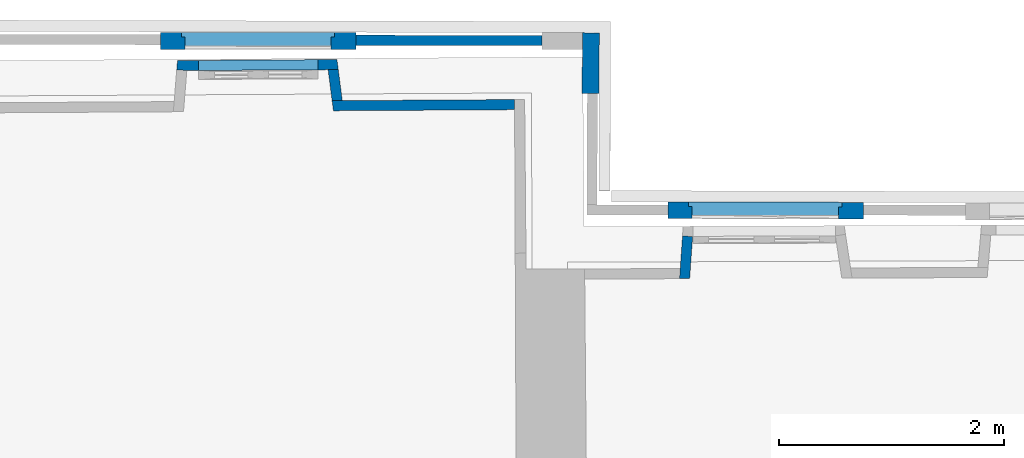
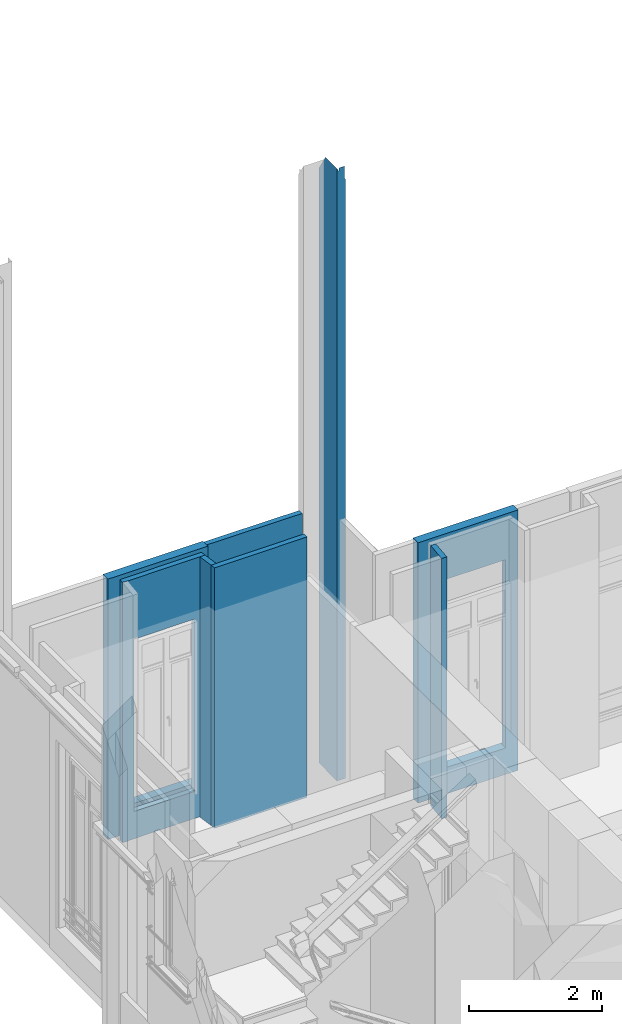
# One storey, part 21 of 97: 8 walls, 4 openings.
"""IFC2X3 building model written with IfcOpenShell, lengths in centimetres."""

from ifc_helpers import new_model, entity, si_unit, converted_unit, direction, frame, origin, origin_with_axes, origin_2d_with_axis, place, context, subcontext, project, spatial, polyline, rectangle, outline, extrude, clip, bounded_halfspace, faceted_brep, shape, material, layer, layer_set, layer_usage, type_object, element, save


model = new_model("IFC2X3")

# Units and contexts
model_context = context("Model", 3, precision=0.0001, world=origin(), true_north=direction((0.225632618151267, 0.974212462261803, 0.0)))
body_context = subcontext(model_context, "Body", "Model", "MODEL_VIEW")
footprint_context = subcontext(model_context, "FootPrint", "Model", "MODEL_VIEW")
profile_context = subcontext(model_context, "Profile", "Model", "MODEL_VIEW")
ifc_project = project(units=[si_unit("LENGTHUNIT", "METRE", prefix="CENTI"), si_unit("AREAUNIT", "SQUARE_METRE", prefix="CENTI"), si_unit("VOLUMEUNIT", "CUBIC_METRE", prefix="CENTI"), converted_unit("PLANEANGLEUNIT", "DEGREE", entity("IfcRatioMeasure", 0.0174532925), si_unit("PLANEANGLEUNIT", "RADIAN"), dimensions=[0, 0, 0, 0, 0, 0, 0])], contexts=[model_context])

# Site, building, storey
site_placement = place(None, origin_with_axes())
site = spatial("IfcSite", under=ifc_project, at=site_placement, Name="Default Site", CompositionType="ELEMENT")
building_placement = place(site_placement, origin_with_axes())
building = spatial("IfcBuilding", under=site, at=building_placement, Name="Default Building", CompositionType="ELEMENT")
storey_placement = place(building_placement, origin_with_axes())
storey = spatial("IfcBuildingStorey", under=building, at=storey_placement, Name="Rez-de-chaussée", CompositionType="ELEMENT", Elevation=0.0)

# Walls
ifc_material = material(Name="<aucun>")
ifc_layer_1 = layer(ifc_material, 9.0)
ifc_layer_set_1 = layer_set([ifc_layer_1], Name="default")
ifc_layer_usage_1 = layer_usage(ifc_layer_set_1, "AXIS2", "POSITIVE", -4.5)
wall_type_1 = type_object("IfcWallType", Name="default 90", PredefinedType="NOTDEFINED", material=ifc_layer_set_1)
wall_1_placement = place(storey_placement, frame((-702.218947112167, 756.17984749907, 0.0128503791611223), z_axis=(0.0, 0.0, 1.0), x_axis=(-0.999997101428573, 0.0024077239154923, 0.0)))
element("IfcWallStandardCase", 1, at=wall_1_placement, inside=storey, type_object=wall_type_1, material=ifc_layer_usage_1, Name="Enveloppe 370416", context=body_context, shape_type="SweptSolid", body=[
    extrude(outline(polyline([(165.752882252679, 4.50000000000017), (0.20206396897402, 4.50000000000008), (0.216283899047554, -4.49999999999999), (165.767102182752, -4.4999999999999), (165.752882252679, 4.50000000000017)])), frame((0.0, 0.0, -2.71050543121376e-18), z_axis=(0.0, 0.0, 1.0), x_axis=(1.0, 0.0, 0.0)), (0.0, 0.0, 1.0), 477.795358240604),
])
ifc_layer_usage_2 = layer_usage(ifc_layer_set_1, "AXIS2", "POSITIVE", -4.5)
wall_2_placement = place(storey_placement, frame((-575.757280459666, 544.966545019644, 0.0128503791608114), z_axis=(0.0, 0.0, 1.0), x_axis=(0.0702760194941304, 0.997527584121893, 0.0)))
element("IfcWallStandardCase", 2, at=wall_2_placement, inside=storey, type_object=wall_type_1, material=ifc_layer_usage_2, Name="Enveloppe 668499", context=body_context, shape_type="SweptSolid", body=[
    extrude(outline(polyline([(-0.667915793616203, 4.49999999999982), (-0.000297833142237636, -4.49999999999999), (37.6816343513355, -4.49999999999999), (37.4825373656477, -1.81678857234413), (37.4825373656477, 4.4999999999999), (-0.667915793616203, 4.49999999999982)])), frame((0.0, 0.0, -2.71050543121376e-18), z_axis=(0.0, 0.0, 1.0), x_axis=(1.0, 0.0, 0.0)), (0.0, 0.0, 1.0), 477.795358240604),
])
ifc_layer_usage_3 = layer_usage(ifc_layer_set_1, "AXIS2", "POSITIVE", -4.5)
wall_3_placement = place(storey_placement, frame((-887.925616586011, 698.355817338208, 0.0128503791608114), z_axis=(0.0, 0.0, 1.0), x_axis=(0.999982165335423, 0.00597235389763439, 0.0)))
element("IfcWallStandardCase", 3, at=wall_3_placement, inside=storey, type_object=wall_type_1, material=ifc_layer_usage_3, Name="Enveloppe 666967", context=body_context, shape_type="Clipping", body=[
    clip(extrude(outline(polyline([(-1.11855202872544, 4.50000000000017), (0.000420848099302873, -4.49999999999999), (161.018876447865, -4.50000072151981), (161.01887556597, 4.49985161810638), (-1.11855202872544, 4.50000000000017)])), frame((0.0, 0.0, -2.71050543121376e-18), z_axis=(0.0, 0.0, 1.0), x_axis=(1.0, 0.0, 0.0)), (0.0, 0.0, 1.0), 477.795358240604), bounded_halfspace(frame((161.018876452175, 4.50000000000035, 397.695358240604), z_axis=(0.0, 0.0, 1.0), x_axis=(8.67361737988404e-19, -1.0, 0.0)), True, frame((161.018876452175, 4.50000000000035, 397.695358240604), z_axis=(0.0, 0.0, 1.0), x_axis=(1.0, 0.0, 0.0)), polyline([(-0.0248452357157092, 8.88178419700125e-14), (8.88178419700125e-14, 8.88178419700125e-14), (8.88178419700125e-14, -9.00000000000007), (-0.0248452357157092, 8.88178419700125e-14)]))),
])

# Wall, openings
ifc_layer_usage_4 = layer_usage(ifc_layer_set_1, "AXIS2", "POSITIVE", -4.5)
wall_4_placement = place(storey_placement, frame((-1022.27411921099, 734.070073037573, 0.0128503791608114), z_axis=(0.0, 0.0, 1.0), x_axis=(0.999982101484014, 0.00598303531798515, 0.0)))
wall_4 = element("IfcWallStandardCase", 4, at=wall_4_placement, inside=storey, type_object=wall_type_1, material=ifc_layer_usage_4, Name="Enveloppe 667195", context=body_context, shape_type="SweptSolid", body=[
    extrude(outline(polyline([(-4.92583096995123, -3.72202359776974), (4.04048113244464, -4.49999999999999), (138.662245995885, -4.49999999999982), (137.543370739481, 4.49999999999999), (-4.21243394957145, 4.4999999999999), (-4.92583096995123, -3.72202359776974)])), origin_with_axes(), (0.0, 0.0, 1.0), 477.795358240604),
])
opening_1_placement = place(wall_4_placement, frame((3.86591403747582, -1.13686837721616e-13, 0.0), z_axis=(0.0, 0.0, 1.0), x_axis=(-1.0, -1.13017234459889e-15, 0.0)))
cartesian_point_1 = entity("IfcCartesianPoint", [0.0, -8.88178419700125e-14, 49.5])
cartesian_point_2 = entity("IfcCartesianPoint", [-127.260088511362, -4.50000000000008])
element("IfcOpeningElement", 5, at=opening_1_placement, cuts=wall_4, Name="Baie 30044", ObjectType="Recess", shapes=[
    shape(body_context, "Body", "Brep", [faceted_brep([(2.8816631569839e-05, 24.5000114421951, -4.62607735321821e-10), (-127.26007296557, 24.5000114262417, -4.62607735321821e-10), (-127.26007296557, 24.5000114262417, 49.5000008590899), (2.8816631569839e-05, 24.5000114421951, 49.5000008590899), (2.8819264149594e-05, 3.50001349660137, 49.5000008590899), (2.8819264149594e-05, 3.50001349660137, -4.62607735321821e-10), (-1.60060858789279e-05, 3.50001349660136, -4.62607735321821e-10), (-127.260117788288, 3.50000160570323, -4.62607735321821e-10), (-127.26007296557, 24.4999995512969, -4.62607735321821e-10), (-127.260072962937, 3.50000160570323, -4.62607735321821e-10), (-127.260072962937, 3.50000160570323, 49.5000008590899), (-127.26007296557, 24.4999995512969, 49.5000008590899), (-127.260117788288, 3.50000160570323, 49.5000008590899), (-1.60060858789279e-05, 3.50001349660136, 49.5000008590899), (-1.60060858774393e-05, 3.50000162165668, -4.62607735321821e-10), (-1.60060858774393e-05, 3.50000162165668, 49.5000008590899)], [[[0, 1, 2, 3]], [[3, 4, 5, 0]], [[0, 6, 7, 8]], [[8, 9, 10, 11]], [[11, 12, 13, 3]], [[12, 7, 14, 15]]])]),
    shape(profile_context, "Profile", "GeometricCurveSet", [entity("IfcGeometricCurveSet", [entity("IfcPolyline", [cartesian_point_1, entity("IfcCartesianPoint", [0.0, -8.88178419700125e-14, 0.0]), entity("IfcCartesianPoint", [-127.260088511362, -1.77635683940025e-13, 0.0]), entity("IfcCartesianPoint", [-127.260088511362, -1.77635683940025e-13, 49.5]), cartesian_point_1])])]),
    shape(footprint_context, "FootPrint", "GeometricCurveSet", [entity("IfcGeometricCurveSet", [entity("IfcPolyline", [cartesian_point_2, entity("IfcCartesianPoint", [1.77635683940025e-13, -4.50000000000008]), entity("IfcCartesianPoint", [0.0, 4.49999999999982]), entity("IfcCartesianPoint", [-127.260088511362, 4.49999999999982]), cartesian_point_2])])]),
])
opening_2_placement = place(wall_4_placement, frame((14.4959660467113, 1.13686837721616e-13, 50.7151902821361), z_axis=(0.0, 0.0, 1.0), x_axis=(-1.0, -1.13017234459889e-15, 0.0)))
cartesian_point_3 = entity("IfcCartesianPoint", [0.0, 0.0, 316.0])
cartesian_point_4 = entity("IfcCartesianPoint", [-106.0, -4.49999999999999])
element("IfcOpeningElement", 6, at=opening_2_placement, cuts=wall_4, Name="4294966453_11", ObjectType="Opening", shapes=[
    shape(body_context, "Body", "SweptSolid", [extrude(outline(polyline([(0.0, 316.0), (0.0, -1.11022302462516e-14), (106.0, -1.11022302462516e-14), (106.0, 316.0), (0.0, 316.0)])), frame((0.0, -14.5, 0.0), z_axis=(0.0, 1.0, 0.0), x_axis=(-1.0, 0.0, 0.0)), (0.0, 0.0, 1.0), 29.0)]),
    shape(profile_context, "Profile", "GeometricCurveSet", [entity("IfcGeometricCurveSet", [entity("IfcPolyline", [cartesian_point_3, entity("IfcCartesianPoint", [0.0, 0.0, -1.11022302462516e-14]), entity("IfcCartesianPoint", [-106.0, -8.88178419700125e-14, -1.11022302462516e-14]), entity("IfcCartesianPoint", [-106.0, -8.88178419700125e-14, 316.0]), cartesian_point_3])])]),
    shape(footprint_context, "FootPrint", "GeometricCurveSet", [entity("IfcGeometricCurveSet", [entity("IfcPolyline", [cartesian_point_4, entity("IfcCartesianPoint", [0.0, -4.49999999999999]), entity("IfcCartesianPoint", [0.0, 4.49999999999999]), entity("IfcCartesianPoint", [-106.0, 4.4999999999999]), cartesian_point_4])])]),
])

# Walls
ifc_layer_usage_5 = layer_usage(ifc_layer_set_1, "AXIS2", "POSITIVE", -4.5)
wall_5_placement = place(storey_placement, frame((-883.436539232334, 694.441154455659, 0.0128503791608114), z_axis=(0.0, 0.0, 1.0), x_axis=(-0.129304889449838, 0.991604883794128, 0.0)))
element("IfcWallStandardCase", 7, at=wall_5_placement, inside=storey, type_object=wall_type_1, material=ifc_layer_usage_5, Name="Enveloppe 667464", context=body_context, shape_type="SweptSolid", body=[
    extrude(outline(polyline([(36.7951297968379, 4.50000000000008), (9.06588338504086, 4.4999999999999), (7.9469105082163, -4.49999999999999), (35.6762545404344, -4.49999999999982), (36.7951297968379, 4.50000000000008)])), origin_with_axes(), (0.0, 0.0, 1.0), 477.795358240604),
])
ifc_layer_2 = layer(ifc_material, 15.0)
ifc_layer_set_2 = layer_set([ifc_layer_2], Name="default")
ifc_layer_usage_6 = layer_usage(ifc_layer_set_2, "AXIS2", "POSITIVE", -7.5)
wall_type_2 = type_object("IfcWallType", Name="default 150", PredefinedType="NOTDEFINED", material=ifc_layer_set_2)
wall_6_placement = place(storey_placement, frame((-659.371644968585, 709.371428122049, 0.0128503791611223), z_axis=(0.0, 0.0, 1.0), x_axis=(0.00567507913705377, 0.999983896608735, 0.0)))
solid_1 = clip(clip(clip(clip(clip(clip(clip(clip(extrude(outline(polyline([(0.0, 7.49999999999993), (8.88178419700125e-14, 3.65496215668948), (-0.130947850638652, 3.65305669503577), (-0.0601278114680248, -1.2138646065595), (-0.0999955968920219, -5.46214446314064), (8.88178419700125e-14, -5.46308286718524), (1.77635683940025e-13, -7.50000000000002), (53.8786925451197, -7.49999999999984), (53.8059813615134, 7.50000000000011), (0.0, 7.49999999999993)])), frame((0.0, 0.0, -5.42101086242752e-18), z_axis=(0.0, 0.0, 1.0), x_axis=(1.0, 0.0, 0.0)), (0.0, 0.0, 1.0), 1123.5025493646), bounded_halfspace(frame((-0.0155392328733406, 3.53745925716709, 477.795358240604), z_axis=(0.0, 0.0, 1.0), x_axis=(0.999955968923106, -0.00938404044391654, 0.0)), True, frame((-0.0155392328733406, 3.53745925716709, 477.795358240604), z_axis=(0.0, 0.0, 1.0), x_axis=(1.0, 0.0, 0.0)), polyline([(-0.0059621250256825, -0.635319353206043), (0.0, 8.88178419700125e-14), (0.0155392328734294, -0.000145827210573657), (0.0155392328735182, -0.635251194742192), (-0.0059621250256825, -0.635319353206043)]))), bounded_halfspace(frame((-0.0999955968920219, -5.46214446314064, 477.795358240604), z_axis=(0.0, 0.0, 1.0), x_axis=(0.0093840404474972, 0.999955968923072, 0.0)), True, frame((-0.0999955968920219, -5.46214446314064, 477.795358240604), z_axis=(0.0, 0.0, 1.0), x_axis=(1.0, 0.0, 0.0)), polyline([(0.0, 8.88178419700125e-14), (0.0010765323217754, 0.114714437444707), (0.0999955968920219, 0.116153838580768), (0.0999955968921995, -0.00093840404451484), (0.0, 8.88178419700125e-14)]))), bounded_halfspace(frame((1.77635683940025e-13, 2.90220806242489, 477.795358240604), z_axis=(0.0, 0.0, 1.0), x_axis=(-1.43721839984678e-14, -1.0, 0.0)), True, frame((1.77635683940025e-13, 2.90220806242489, 477.795358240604), z_axis=(0.0, 0.0, 1.0), x_axis=(1.0, 0.0, 0.0)), polyline([(-0.0601278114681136, -4.11607266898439), (-0.0215013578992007, -6.81584638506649e-05), (0.0, 0.0), (-1.77635683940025e-13, -8.24819868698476), (-0.0601278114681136, -4.11607266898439)]))), bounded_halfspace(frame((0.0, -5.34599062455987, 477.795358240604), z_axis=(0.0, 0.0, 1.0), x_axis=(-0.999894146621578, -0.014549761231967, 0.0)), True, frame((0.0, -5.34599062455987, 477.795358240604), z_axis=(0.0, 0.0, 1.0), x_axis=(1.0, 0.0, 0.0)), polyline([(-0.0989190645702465, -0.00143940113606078), (-0.060127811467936, 4.13212601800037), (0.0, 0.0), (-0.0989190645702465, -0.00143940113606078)]))), bounded_halfspace(frame((-0.130947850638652, 3.65305669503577, 853.897523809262), z_axis=(0.0, 0.0, 1.0), x_axis=(0.999894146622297, 0.0145497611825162, 0.0)), True, frame((-0.130947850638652, 3.65305669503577, 853.897523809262), z_axis=(0.0, 0.0, 1.0), x_axis=(1.0, 0.0, 0.0)), polyline([(0.0016665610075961, -0.114530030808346), (0.0, 8.88178419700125e-14), (0.130947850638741, 0.0019054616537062), (0.130947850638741, -0.11574326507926), (0.0016665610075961, -0.114530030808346)]))), bounded_halfspace(frame((-0.0215013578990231, 2.90213990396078, 853.897523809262), z_axis=(0.0, 0.0, 1.0), x_axis=(-0.00938404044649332, -0.999955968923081, 0.0)), True, frame((-0.0215013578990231, 2.90213990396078, 853.897523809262), z_axis=(0.0, 0.0, 1.0), x_axis=(1.0, 0.0, 0.0)), polyline([(-0.107779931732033, 0.63638676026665), (0.0059621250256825, 0.635319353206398), (-0.0386264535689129, -4.11600451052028), (-0.107779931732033, 0.63638676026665)]))), bounded_halfspace(frame((32.5779649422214, 7.50000000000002, 1123.4939602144), z_axis=(0.00174607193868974, 0.859768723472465, -0.510680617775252), x_axis=(-0.434852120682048, 0.460522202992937, 0.77383650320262)), True, frame((32.5779649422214, 7.50000000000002, 1123.4939602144), z_axis=(0.0, 0.0, 1.0), x_axis=(1.0, 0.0, 0.0)), polyline([(-32.5779649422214, -13.597837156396), (6.22784018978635, -13.4748242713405), (6.22784018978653, -6.59548050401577), (0.0, 0.0), (-32.5779649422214, 0.0), (-32.5779649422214, -13.597837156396)]))), bounded_halfspace(frame((48.6958165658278, -5.94408199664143, 1100.91673356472), z_axis=(-0.84952483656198, -0.00137620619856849, -0.527546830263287), x_axis=(0.00326736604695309, -0.999991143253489, -0.00265287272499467)), True, frame((48.6958165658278, -5.94408199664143, 1100.91673356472), z_axis=(0.0, 0.0, 1.0), x_axis=(1.0, 0.0, 0.0)), polyline([(8.88178419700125e-14, 8.88178419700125e-14), (1.62573638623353, -1.5559180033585), (5.18287597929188, -1.55591800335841), (5.11016479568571, 13.4440819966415), (2.48507052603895, 13.4440819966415), (2.52896946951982, 0.00862540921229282), (8.88178419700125e-14, 8.88178419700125e-14)])))
solid_2 = clip(clip(clip(clip(clip(clip(clip(clip(solid_1, bounded_halfspace(frame((38.8058051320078, 3.52119599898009, 1116.81823024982), z_axis=(-0.84952483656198, -0.00137620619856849, -0.527546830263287), x_axis=(3.15719672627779e-15, -0.999996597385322, 0.0026086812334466)), True, frame((38.8058051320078, 3.52119599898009, 1116.81823024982), z_axis=(0.0, 0.0, 1.0), x_axis=(1.0, 0.0, 0.0)), polyline([(0.0, 0.0), (9.88937754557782, -9.46467133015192), (12.4189809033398, -9.45665258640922), (12.3750819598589, 3.97880400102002), (0.0, 3.97880400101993), (0.0, 0.0)]))), bounded_halfspace(frame((38.8058051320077, -5.97482427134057, 1100.82938708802), z_axis=(0.00174607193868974, 0.859768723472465, -0.510680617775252), x_axis=(0.999994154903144, 2.23779328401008e-15, 0.00341908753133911)), True, frame((38.8058051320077, -5.97482427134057, 1100.82938708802), z_axis=(0.0, 0.0, 1.0), x_axis=(1.0, 0.0, 0.0)), polyline([(-38.8058051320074, -1.52517572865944), (0.0, -1.52517572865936), (0.0, 8.88178419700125e-14), (-38.8058051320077, -0.123012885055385), (-38.8058051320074, -1.52517572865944)]))), bounded_halfspace(frame((34.6484610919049, 7.50000000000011, 1123.5025493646), z_axis=(-0.84952483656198, -0.00137620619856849, -0.527546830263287), x_axis=(0.471347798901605, -0.451105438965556, -0.757849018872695)), True, frame((34.6484610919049, 7.50000000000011, 1123.5025493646), z_axis=(0.0, 0.0, 1.0), x_axis=(1.0, 0.0, 0.0)), polyline([(0.0, 0.0), (4.15734404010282, -3.97880400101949), (4.15734404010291, -8.88178419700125e-14), (0.0, 0.0)]))), bounded_halfspace(frame((34.6484610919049, 7.50000000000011, 1123.50103946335), z_axis=(0.00174607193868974, 0.859768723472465, -0.510680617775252), x_axis=(-0.999994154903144, -2.28610533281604e-14, -0.00341908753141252)), True, frame((34.6484610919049, 7.50000000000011, 1123.50103946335), z_axis=(0.0, 0.0, 1.0), x_axis=(1.0, 0.0, 0.0)), polyline([(-2.07049614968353, -8.88178419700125e-14), (4.15734404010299, -6.59548050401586), (4.15734404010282, -3.97880400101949), (0.0, 0.0), (-2.07049614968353, -8.88178419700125e-14)]))), bounded_halfspace(frame((45.2822998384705, -5.95429403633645, 1100.88609509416), z_axis=(0.00174607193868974, 0.859768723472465, -0.510680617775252), x_axis=(0.999994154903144, 8.01702454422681e-15, 0.00341908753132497)), True, frame((45.2822998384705, -5.95429403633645, 1100.88609509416), z_axis=(0.0, 0.0, 1.0), x_axis=(1.0, 0.0, 0.0)), polyline([(-6.47649470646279, -1.54570596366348), (1.45954638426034, -1.5457059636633), (8.88178419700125e-14, 0.0), (-6.47649470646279, -0.0205302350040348), (-6.47649470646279, -1.54570596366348)]))), bounded_halfspace(frame((48.6951826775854, -5.94347533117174, 1100.91597820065), z_axis=(0.00174607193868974, 0.859768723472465, -0.510680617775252), x_axis=(-0.999956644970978, -0.00316982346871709, -0.00875559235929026)), True, frame((48.6951826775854, -5.94347533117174, 1100.91597820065), z_axis=(0.0, 0.0, 1.0), x_axis=(1.0, 0.0, 0.0)), polyline([(-3.41288283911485, -0.0108187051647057), (-1.9533364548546, -1.55652466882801), (1.62572544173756, -1.55590752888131), (8.88178419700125e-14, 0.0), (-3.41288283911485, -0.0108187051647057)]))), bounded_halfspace(frame((38.8058051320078, 3.52119599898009, 1116.81664202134), z_axis=(0.00174607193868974, 0.859768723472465, -0.510680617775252), x_axis=(-1.23824561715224e-14, -0.510681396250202, -0.859770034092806)), True, frame((38.8058051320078, 3.52119599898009, 1116.81664202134), z_axis=(0.0, 0.0, 1.0), x_axis=(1.0, 0.0, 0.0)), polyline([(8.88178419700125e-14, -2.61667650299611), (6.47649470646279, -9.47549003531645), (9.88937754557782, -9.46467133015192), (0.0, 0.0), (8.88178419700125e-14, -2.61667650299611)]))), bounded_halfspace(frame((38.8058051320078, 0.90451949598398, 1112.41127291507), z_axis=(0.00174607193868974, 0.859768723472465, -0.510680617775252), x_axis=(-0.43485212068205, 0.460522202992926, 0.773836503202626)), True, frame((38.8058051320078, 0.90451949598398, 1112.41127291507), z_axis=(0.0, 0.0, 1.0), x_axis=(1.0, 0.0, 0.0)), polyline([(-8.88178419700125e-14, -6.87934376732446), (6.47649470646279, -6.85881353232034), (8.88178419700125e-14, 0.0), (-8.88178419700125e-14, -6.87934376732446)])))
element("IfcWallStandardCase", 8, at=wall_6_placement, inside=storey, type_object=wall_type_2, material=ifc_layer_usage_6, Name="Enveloppe 373947", context=body_context, shape_type="Clipping", body=[
    clip(clip(clip(clip(clip(solid_2, bounded_halfspace(frame((0.0, -5.34599062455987, 1101.7553939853), z_axis=(0.00174607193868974, 0.859768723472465, -0.510680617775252), x_axis=(-1.60409879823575e-14, 0.510681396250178, 0.85977003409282)), True, frame((0.0, -5.34599062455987, 1101.7553939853), z_axis=(0.0, 0.0, 1.0), x_axis=(1.0, 0.0, 0.0)), polyline([(-0.0999955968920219, -0.116153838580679), (1.77635683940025e-13, -0.117092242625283), (0.0, 0.0), (-0.0989190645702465, -0.00143940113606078), (-0.0999955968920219, -0.116153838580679)]))), bounded_halfspace(frame((1.77635683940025e-13, 2.90220806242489, 1115.64184866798), z_axis=(0.00174607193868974, 0.859768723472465, -0.510680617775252), x_axis=(-0.00479234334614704, -0.510668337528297, -0.859764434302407)), True, frame((1.77635683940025e-13, 2.90220806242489, 1115.64184866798), z_axis=(0.0, 0.0, 1.0), x_axis=(1.0, 0.0, 0.0)), polyline([(-0.0601278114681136, -4.11607266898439), (-1.77635683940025e-13, -8.24819868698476), (0.0, 0.0), (-0.0215013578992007, -6.81584638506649e-05), (-0.0601278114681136, -4.11607266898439)]))), bounded_halfspace(frame((-0.0601278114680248, -1.2138646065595, 853.897523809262), z_axis=(0.0, 0.0, -1.0), x_axis=(-0.00938404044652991, -0.999955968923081, 0.0)), True, frame((-0.0601278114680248, -1.2138646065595, 853.897523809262), z_axis=(0.0, 0.0, 1.0), x_axis=(1.0, 0.0, 0.0)), polyline([(-0.0387912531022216, -4.13356541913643), (0.0601278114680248, -4.13212601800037), (8.88178419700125e-14, 0.0), (-0.0387912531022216, -4.13356541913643)]))), bounded_halfspace(frame((8.88178419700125e-14, 3.65496215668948, 1116.90916605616), z_axis=(0.00174607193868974, 0.859768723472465, -0.510680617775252), x_axis=(0.999879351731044, -0.00938332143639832, -0.0123788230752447)), True, frame((8.88178419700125e-14, 3.65496215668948, 1116.90916605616), z_axis=(0.0, 0.0, 1.0), x_axis=(1.0, 0.0, 0.0)), polyline([(-0.129281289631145, -0.116435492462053), (0.0, -0.117648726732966), (0.0, 0.0), (-0.130947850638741, -0.00190546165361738), (-0.129281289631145, -0.116435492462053)]))), bounded_halfspace(frame((-0.129281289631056, 3.53852666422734, 1116.71269623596), z_axis=(0.00174607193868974, 0.859768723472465, -0.510680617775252), x_axis=(-0.999879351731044, 0.00938332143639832, 0.0123788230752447)), True, frame((-0.129281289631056, 3.53852666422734, 1116.71269623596), z_axis=(0.0, 0.0, 1.0), x_axis=(1.0, 0.0, 0.0)), polyline([(0.0691534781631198, -4.75239127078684), (0.113742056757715, -0.0010674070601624), (0.0, 8.88178419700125e-14), (0.0691534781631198, -4.75239127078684)]))),
])

# Wall, opening
ifc_layer_usage_7 = layer_usage(ifc_layer_set_2, "AXIS2", "POSITIVE", -7.5)
wall_7_placement = place(storey_placement, frame((-416.840709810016, 605.000028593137, 0.0128503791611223), z_axis=(0.0, 0.0, 1.0), x_axis=(-0.999996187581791, 0.00276130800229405, 0.0)))
wall_7 = element("IfcWallStandardCase", 9, at=wall_7_placement, inside=storey, type_object=wall_type_2, material=ifc_layer_usage_7, Name="Enveloppe 373583", context=body_context, shape_type="SweptSolid", body=[
    extrude(rectangle(XDim=14.9999999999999, YDim=173.830662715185, at=origin_2d_with_axis()), frame((86.9153313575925, -1.77635683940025e-13, -5.42101086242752e-18), z_axis=(0.0, 0.0, 1.0), x_axis=(-3.29597460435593e-17, -1.0, 0.0)), (0.0, 0.0, 1.0), 477.795358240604),
])
opening_3_placement = place(wall_7_placement, frame((18.9745790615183, 1.13686837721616e-13, 48.4996580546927), z_axis=(0.0, 0.0, 1.0), x_axis=(-1.0, 2.9845917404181e-15, 0.0)))
cartesian_point_5 = entity("IfcCartesianPoint", [-8.88178419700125e-14, 8.88178419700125e-14, 345.312165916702])
cartesian_point_6 = entity("IfcCartesianPoint", [-136.302084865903, -7.49999999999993])
element("IfcOpeningElement", 10, at=opening_3_placement, cuts=wall_7, Name="Baie 379595", ObjectType="Opening", shapes=[
    shape(body_context, "Body", "Brep", [faceted_brep([(-2.99998364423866, -27.5000056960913, 345.312164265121), (-133.302099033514, -27.5000056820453, 345.312164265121), (-133.302099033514, -27.5000056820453, 1.03136375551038e-06), (-2.99998364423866, -27.5000056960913, 1.03136375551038e-06), (1.71597704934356e-06, 27.5000192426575, 1.03136375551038e-06), (-136.302083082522, 27.5000192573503, 1.03136375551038e-06), (-136.302083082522, 27.5000192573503, 345.312164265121), (1.71597704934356e-06, 27.5000192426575, 345.312164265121), (-2.99998364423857, -27.5000056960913, 1.03136375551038e-06), (-2.9999836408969, 3.50001137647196, 1.03136375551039e-06), (-2.99998364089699, 3.50001137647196, 345.312164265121), (-2.9999919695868, 3.50001137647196, 345.312164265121), (-2.9999919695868, 3.50001137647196, 1.03136375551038e-06), (-7.19914030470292e-06, 3.50001137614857, 1.03136375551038e-06), (-7.19914030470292e-06, 3.50001137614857, 345.312164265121), (-7.19914030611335e-06, 3.49999829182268, 345.312164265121), (-7.19914030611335e-06, 3.49999829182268, 1.03136375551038e-06), (-7.19655320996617e-06, 27.5000192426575, 1.03136375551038e-06), (-7.19655320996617e-06, 27.5000192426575, 345.312164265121), (-133.302099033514, -27.4999886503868, 1.03136375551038e-06), (-133.302107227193, 3.49998073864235, 1.03136375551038e-06), (-136.302091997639, 3.49999382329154, 1.03136375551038e-06), (-136.302083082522, 27.5000147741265, 1.03136375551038e-06), (-133.302099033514, -27.4999886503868, 345.312164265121), (-133.302099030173, 3.49998073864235, 345.312164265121), (-133.302099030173, 3.49998073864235, 1.03136375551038e-06), (-133.302107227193, 3.49998073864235, 345.312164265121), (-136.302091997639, 3.49998073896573, 345.312164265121), (-136.302091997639, 3.49998073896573, 1.03136375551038e-06), (-136.30209199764, 3.49999382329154, 345.312164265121), (-136.302091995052, 27.5000147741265, 345.312164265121), (-136.302091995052, 27.5000147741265, 1.03136375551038e-06), (-136.302083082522, 27.5000147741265, 345.312164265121), (-136.302091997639, 3.49999382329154, 345.312164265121)], [[[0, 1, 2, 3]], [[4, 5, 6, 7]], [[0, 8, 9, 10]], [[11, 12, 13, 14]], [[15, 16, 17, 18]], [[3, 19, 20, 21, 22, 4, 16, 12]], [[19, 23, 24, 25]], [[20, 26, 27, 28]], [[21, 29, 30, 31]], [[11, 15, 7, 32, 33, 26, 23, 0]]])]),
    shape(profile_context, "Profile", "GeometricCurveSet", [entity("IfcGeometricCurveSet", [entity("IfcPolyline", [cartesian_point_5, entity("IfcCartesianPoint", [-8.88178419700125e-14, 8.88178419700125e-14, 0.0]), entity("IfcCartesianPoint", [-136.302084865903, 1.77635683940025e-13, 0.0]), entity("IfcCartesianPoint", [-136.302084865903, 1.77635683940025e-13, 345.312165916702]), cartesian_point_5])])]),
    shape(footprint_context, "FootPrint", "GeometricCurveSet", [entity("IfcGeometricCurveSet", [entity("IfcPolyline", [cartesian_point_6, entity("IfcCartesianPoint", [0.0, -7.49999999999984]), entity("IfcCartesianPoint", [0.0, 7.50000000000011]), entity("IfcCartesianPoint", [-136.302084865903, 7.50000000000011]), cartesian_point_6])])]),
])

ifc_layer_usage_8 = layer_usage(ifc_layer_set_2, "AXIS2", "POSITIVE", -7.5)
wall_8_placement = place(storey_placement, frame((-867.979032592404, 755.885820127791, 0.0128503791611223), z_axis=(0.0, 0.0, 1.0), x_axis=(-0.999999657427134, 0.000827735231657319, 0.0)))
wall_8 = element("IfcWallStandardCase", 11, at=wall_8_placement, inside=storey, type_object=wall_type_2, material=ifc_layer_usage_8, Name="Enveloppe 374089", context=body_context, shape_type="SweptSolid", body=[
    extrude(rectangle(XDim=14.9999999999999, YDim=173.552591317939, at=origin_2d_with_axis()), frame((86.7762956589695, 5.32907051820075e-13, 0.0), z_axis=(0.0, 0.0, 1.0), x_axis=(1.1837427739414e-14, -1.0, 0.0)), (0.0, 0.0, 1.0), 477.795358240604),
])
opening_4_placement = place(wall_8_placement, frame((18.9310866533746, 2.27373675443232e-13, 50.4871496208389), z_axis=(0.0, 0.0, 1.0), x_axis=(-1.0, -4.88953495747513e-15, 0.0)))
cartesian_point_7 = entity("IfcCartesianPoint", [-1.77635683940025e-13, 8.88178419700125e-14, 343.201463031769])
cartesian_point_8 = entity("IfcCartesianPoint", [-136.022671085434, -7.49999999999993])
element("IfcOpeningElement", 12, at=opening_4_placement, cuts=wall_8, Name="Baie 379596", ObjectType="Opening", shapes=[
    shape(body_context, "Body", "Brep", [faceted_brep([(-3.00004410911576, -27.4999852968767, 343.201457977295), (-133.022709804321, -27.4999852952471, 343.201457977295), (-133.022709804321, -27.4999852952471, -4.76837158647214e-07), (-3.00004410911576, -27.4999852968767, -4.76837158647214e-07), (-9.58464383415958e-06, 27.5000086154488, -4.76837158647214e-07), (-136.022623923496, 27.5000086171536, -4.76837158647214e-07), (-136.022623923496, 27.5000086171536, 343.201457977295), (-9.58464383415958e-06, 27.5000086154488, 343.201457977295), (-3.00004410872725, 3.50001967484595, -4.76837158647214e-07), (-3.00004410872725, 3.50001967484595, 343.201457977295), (-2.99995469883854, 3.50001967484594, 343.201457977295), (-2.99995469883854, 3.50001967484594, -4.76837158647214e-07), (1.9622984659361e-05, 3.50001967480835, -4.76837158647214e-07), (1.9622984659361e-05, 3.50001967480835, 343.201457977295), (1.96229846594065e-05, 3.50002330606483, 343.201457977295), (1.96229846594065e-05, 3.50002330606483, -4.76837158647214e-07), (1.96232854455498e-05, 27.5000086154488, -4.76837158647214e-07), (1.96232854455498e-05, 27.5000086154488, 343.201457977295), (-133.022709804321, -27.4999874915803, -4.76837158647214e-07), (-133.022715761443, 3.50001740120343, -4.76837158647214e-07), (-136.022690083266, 3.50001376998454, -4.76837158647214e-07), (-136.022623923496, 27.4999991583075, -4.76837158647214e-07), (-133.022709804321, -27.4999874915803, 343.201457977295), (-133.022709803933, 3.50001740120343, 343.201457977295), (-133.022709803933, 3.50001740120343, -4.76837158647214e-07), (-133.022715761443, 3.50001740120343, 343.201457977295), (-136.022690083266, 3.50001740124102, 343.201457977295), (-136.022690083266, 3.50001740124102, -4.76837158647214e-07), (-136.022690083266, 3.50001376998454, 343.201457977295), (-136.022690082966, 27.4999991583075, 343.201457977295), (-136.022690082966, 27.4999991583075, -4.76837158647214e-07), (-136.022623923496, 27.4999991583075, 343.201457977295)], [[[0, 1, 2, 3]], [[4, 5, 6, 7]], [[0, 3, 8, 9]], [[10, 11, 12, 13]], [[14, 15, 16, 17]], [[3, 18, 19, 20, 21, 4, 15, 11]], [[18, 22, 23, 24]], [[19, 25, 26, 27]], [[20, 28, 29, 30]], [[10, 14, 7, 31, 28, 25, 22, 0]]])]),
    shape(profile_context, "Profile", "GeometricCurveSet", [entity("IfcGeometricCurveSet", [entity("IfcPolyline", [cartesian_point_7, entity("IfcCartesianPoint", [0.0, 8.88178419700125e-14, -1.11022302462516e-14]), entity("IfcCartesianPoint", [-136.022671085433, 0.0, -1.11022302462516e-14]), entity("IfcCartesianPoint", [-136.022671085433, 0.0, 343.201463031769]), cartesian_point_7])])]),
    shape(footprint_context, "FootPrint", "GeometricCurveSet", [entity("IfcGeometricCurveSet", [entity("IfcPolyline", [cartesian_point_8, entity("IfcCartesianPoint", [0.0, -7.49999999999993]), entity("IfcCartesianPoint", [0.0, 7.50000000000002]), entity("IfcCartesianPoint", [-136.022671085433, 7.50000000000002]), cartesian_point_8])])]),
])

save(model, "model.ifc")
